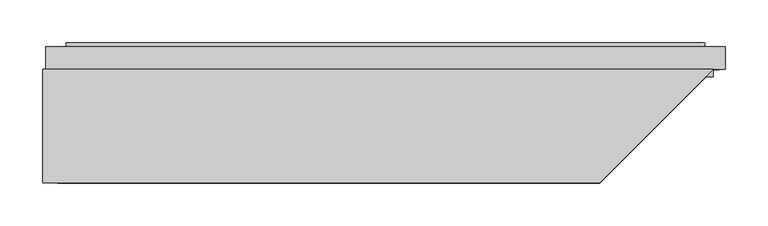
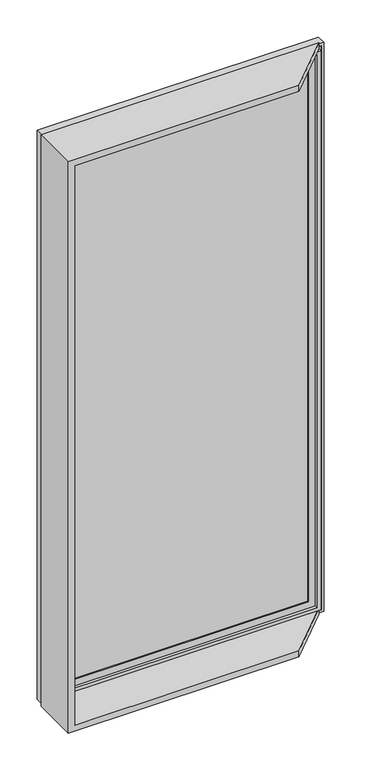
"""IFC4 building model written with IfcOpenShell, lengths in millimetres: plate geometry, SCISSOR PANEL : SCISSOR PANEL."""

from ifc_helpers import new_model, si_unit, frame, origin, place, context, project, spatial, polyline, outline, extrude, faceted_brep, source, transform, mapped, element, save


def plate_6f23bc21(model_context):
    return source(origin(), model_context, "Body", "SolidModel", [
        faceted_brep([(-400.0, 132.5, 0.0), (-400.0, 132.5, 1700.0), (382.5, 132.5, 1700.0), (382.5, 132.5, 1682.5), (-382.5, 132.5, 1682.5), (-382.5, 132.5, 17.5), (382.5, 132.5, 17.5), (382.5, 132.5, 0.0), (-382.5, 0.0, 1682.5), (-382.5, 0.0, 17.5), (250.0, 0.0, 17.5), (250.0, 0.0, 0.0), (250.0, 0.0, 1700.0), (250.0, 0.0, 1682.5), (-400.0, 0.0, 1700.0), (-400.0, 0.0, 0.0)], [[[0, 1, 2, 3, 4, 5, 6, 7]], [[8, 9, 5, 4]], [[10, 11, 7, 6]], [[12, 13, 3, 2]], [[14, 15, 11, 10, 9, 8, 13, 12]], [[15, 14, 1, 0]], [[15, 0, 7, 11]], [[1, 14, 12, 2]], [[4, 3, 13, 8]], [[6, 5, 9, 10]]]),
        extrude(outline(polyline([(-369.5, 160.5), (369.5, 160.5), (369.5, 135.5), (-369.5, 135.5), (-369.5, 160.5)])), frame((0.0, 0.0, 30.5), z_axis=(0.0, 0.0, 1.0), x_axis=(1.0, 0.0, 0.0)), (0.0, 0.0, 1.0), 1639.0),
        faceted_brep([(-352.5, 135.5, 1652.5), (-352.5, 132.5, 1652.5), (-352.5, 132.5, 47.5), (-352.5, 135.5, 47.5), (-369.5, 160.5, 1669.5), (-369.5, 135.5, 1669.5), (-369.5, 135.5, 30.5), (-369.5, 160.5, 30.5), (-352.5, 163.5, 1652.5), (-352.5, 160.5, 1652.5), (-352.5, 160.5, 47.5), (-352.5, 163.5, 47.5), (-372.5, 132.5, 1672.5), (-372.5, 163.5, 1672.5), (-372.5, 163.5, 27.5), (-372.5, 132.5, 27.5), (352.5, 132.5, 47.5), (352.5, 135.5, 47.5), (369.5, 135.5, 30.5), (369.5, 160.5, 30.5), (352.5, 160.5, 47.5), (352.5, 163.5, 47.5), (372.5, 163.5, 27.5), (372.5, 132.5, 27.5), (352.5, 132.5, 1652.5), (352.5, 135.5, 1652.5), (369.5, 135.5, 1669.5), (369.5, 160.5, 1669.5), (352.5, 160.5, 1652.5), (352.5, 163.5, 1652.5), (372.5, 163.5, 1672.5), (372.5, 132.5, 1672.5)], [[[0, 1, 2, 3]], [[4, 5, 6, 7]], [[8, 9, 10, 11]], [[12, 13, 14, 15]], [[3, 2, 16, 17]], [[7, 6, 18, 19]], [[11, 10, 20, 21]], [[15, 14, 22, 23]], [[17, 16, 24, 25]], [[19, 18, 26, 27]], [[21, 20, 28, 29]], [[23, 22, 30, 31]], [[15, 23, 31, 12], [1, 24, 16, 2]], [[25, 24, 1, 0]], [[5, 26, 18, 6], [3, 17, 25, 0]], [[27, 26, 5, 4]], [[7, 19, 27, 4], [9, 28, 20, 10]], [[29, 28, 9, 8]], [[13, 30, 22, 14], [11, 21, 29, 8]], [[31, 30, 13, 12]]]),
        faceted_brep([(-396.5, 132.5, 1696.5), (-396.5, 158.75, 1696.5), (-396.5, 158.75, 3.5), (-396.5, 132.5, 3.5), (-389.5, 150.0, 1689.5), (-389.5, 132.5, 1689.5), (-389.5, 132.5, 10.5), (-389.5, 150.0, 10.5), (-382.5, 123.75, 1682.5), (-382.5, 150.0, 1682.5), (-382.5, 150.0, 17.5), (-382.5, 123.75, 17.5), (-372.5, 158.75, 1672.5), (-372.5, 123.75, 1672.5), (-372.5, 123.75, 27.5), (-372.5, 158.75, 27.5), (396.5, 158.75, 3.5), (396.5, 132.5, 3.5), (389.5, 132.5, 10.5), (389.5, 150.0, 10.5), (382.5, 150.0, 17.5), (382.5, 123.75, 17.5), (372.5, 123.75, 27.5), (372.5, 158.75, 27.5), (396.5, 158.75, 1696.5), (396.5, 132.5, 1696.5), (389.5, 132.5, 1689.5), (389.5, 150.0, 1689.5), (382.5, 150.0, 1682.5), (382.5, 123.75, 1682.5), (372.5, 123.75, 1672.5), (372.5, 158.75, 1672.5)], [[[0, 1, 2, 3]], [[4, 5, 6, 7]], [[8, 9, 10, 11]], [[12, 13, 14, 15]], [[3, 2, 16, 17]], [[7, 6, 18, 19]], [[11, 10, 20, 21]], [[15, 14, 22, 23]], [[17, 16, 24, 25]], [[19, 18, 26, 27]], [[21, 20, 28, 29]], [[23, 22, 30, 31]], [[25, 24, 1, 0]], [[3, 17, 25, 0], [5, 26, 18, 6]], [[27, 26, 5, 4]], [[7, 19, 27, 4], [9, 28, 20, 10]], [[29, 28, 9, 8]], [[11, 21, 29, 8], [13, 30, 22, 14]], [[31, 30, 13, 12]], [[1, 24, 16, 2], [15, 23, 31, 12]]]),
        extrude(outline(polyline([(1689.5, -389.5), (10.5, -389.5), (10.5, 389.5), (1689.5, 389.5), (1689.5, -389.5)]), holes=[polyline([(1682.5, -382.5), (1682.5, 382.5), (17.5, 382.5), (17.5, -382.5), (1682.5, -382.5)])]), frame((0.0, 132.5, 0.0), z_axis=(0.0, 1.0, 0.0), x_axis=(0.0, 0.0, 1.0)), (0.0, 0.0, 1.0), 17.5),
    ])


if __name__ == "__main__":
    model = new_model("IFC4")
    model_context = context("Model", 3, world=origin())
    ifc_project = project(units=[si_unit("LENGTHUNIT", "METRE", prefix="MILLI")], contexts=[model_context])
    site = spatial("IfcSite", under=ifc_project)
    building = spatial("IfcBuilding", under=site)
    placement = place(None, origin())
    plate_shape = plate_6f23bc21(model_context)
    element("IfcPlate", 1, ObjectType="SCISSOR PANEL : SCISSOR PANEL", at=placement, inside=building, context=model_context, shape_type="MappedRepresentation", body=[
        mapped(plate_shape, transform((0.0, 0.0, 0.0), x_axis=(1.0, 0.0, 0.0), y_axis=(0.0, 1.0, 0.0), z_axis=(0.0, 0.0, 1.0))),
    ])
    save(model, "model.ifc")
